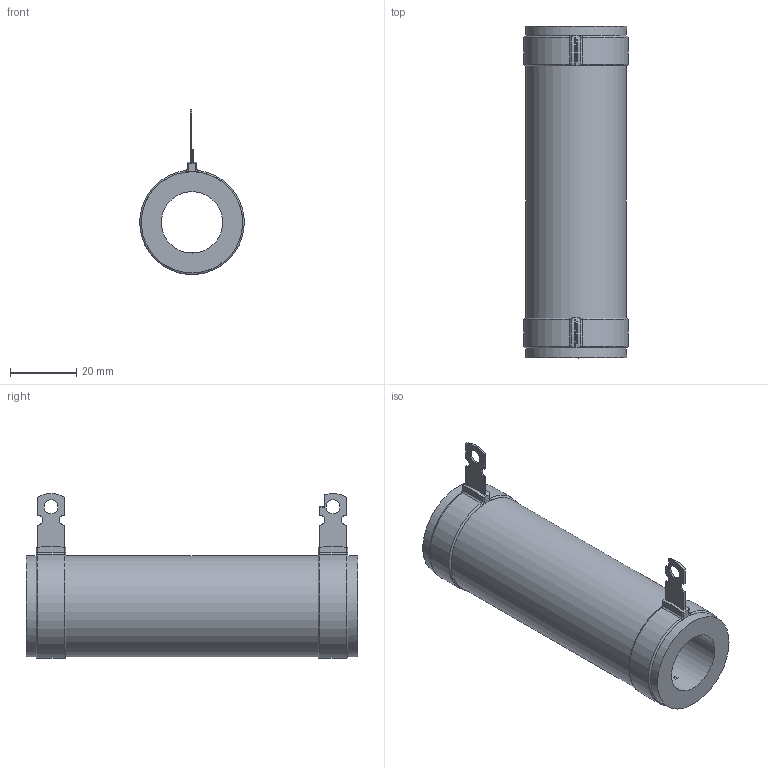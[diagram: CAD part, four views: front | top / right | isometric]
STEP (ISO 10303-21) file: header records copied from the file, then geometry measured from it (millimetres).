
FILE_DESCRIPTION(/* description */ (''),/* implementation_level */ '2;1');
FILE_NAME(/* name */ 'C:\_Vault\Dati\CATALOGO\RCA-RSA\25-1000\CA0090.stp',/* time_stamp */ '2014-01-22T14:55:31+01:00',/* author */ ('stefano'),/* organization */ (''),/* preprocessor_version */ 'ST-DEVELOPER v15.2',/* originating_system */ 'Autodesk Inventor 2014',/* authorisation */ '');
FILE_SCHEMA (('AUTOMOTIVE_DESIGN { 1 0 10303 214 3 1 1 }'));
Length unit declared in the file: millimetre
Products named in the file (1): CA0090
Bounding box: 31.43 x 100 x 49.69 mm (x, y, z)
Volume: 47288.2 mm3; surface area: 17142.4 mm2
Topology: 1 solids, 1 shells, 81 faces, 196 edges, 122 vertices
Faces by surface type: plane 38, cylinder 31, torus 12
Full cylindrical faces by diameter (mm): 4.2 x2, 18.5 x1, 30.5 x3
Entity records: 2516 total; most frequent: CARTESIAN_POINT 462, DIRECTION 428, ORIENTED_EDGE 376, EDGE_CURVE 188, AXIS2_PLACEMENT_3D 166, VERTEX_POINT 120, EDGE_LOOP 98, LINE 96
